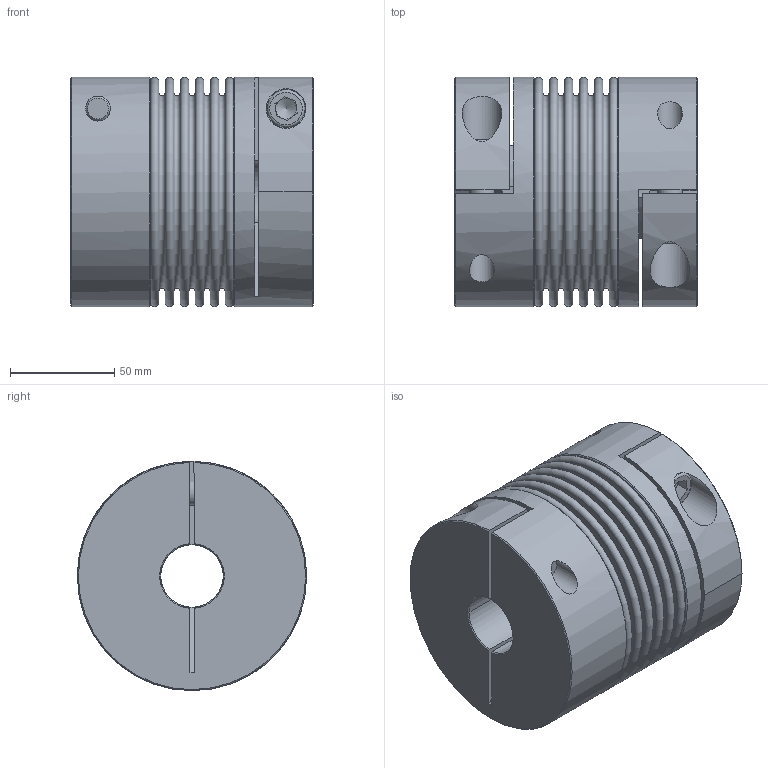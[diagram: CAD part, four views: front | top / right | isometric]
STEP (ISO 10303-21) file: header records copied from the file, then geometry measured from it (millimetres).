
FILE_DESCRIPTION( ( 'Unknown' ), '1' );
FILE_NAME( 'K:/Konstruktion/Homepage/KB4AL/KB4AL-300-116.stp', 'Unknown', ( 'Unknown' ), ( 'Unknown' ), 'PSStep 16.0.42', 'Unknown', ' ' );
FILE_SCHEMA( ( 'AUTOMOTIVE_DESIGN { 1 0 10303 214 1 1 1 1 }' ) );
Length unit declared in the file: millimetre
Products named in the file (4): Assem1; BL300_Standard_0; Socket Head Cap Screw_DIN_DIN 912 M12 x 40 --- 40N_0; KN300_Standard_2
Assembly tree (5 placements, depth 2):
  Assem1
    BL300_Standard_0
    Socket Head Cap Screw_DIN_DIN 912 M12 x 40 --- 40N_0  x2
    KN300_Standard_2  x2
Bounding box: 116.2 x 110 x 110 mm (x, y, z)
Volume: 661643.9 mm3; surface area: 187135.8 mm2
Topology: 5 solids, 5 shells, 138 faces, 288 edges, 186 vertices
Faces by surface type: plane 74, torus 26, cylinder 26, cone 12
Full cylindrical faces by diameter (mm): 12 x4, 12.5 x2, 18 x2, 19 x2, 30 x2, 99.8 x2, 101 x2, 110 x2
Entity records: 3207 total; most frequent: CARTESIAN_POINT 553, DIRECTION 409, ORIENTED_EDGE 268, AXIS2_PLACEMENT_3D 185, EDGE_LOOP 164, EDGE_CURVE 134, FACE_OUTER_BOUND 128, VERTEX_POINT 123
